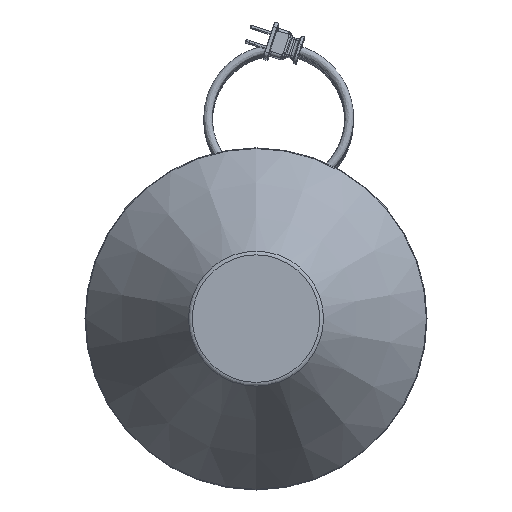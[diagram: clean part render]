
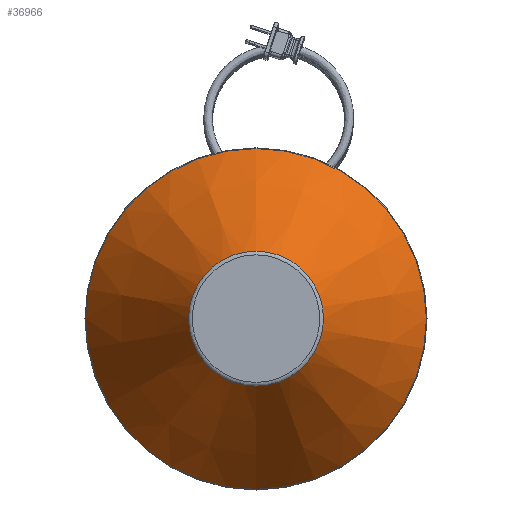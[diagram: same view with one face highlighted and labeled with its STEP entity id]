
A CAD part, top view. The second image highlights one B-rep face of the part: STEP entity #36966.
In plain terms, the highlighted conical face has half-angle 32.969 degrees and reference radius 85.717 mm.
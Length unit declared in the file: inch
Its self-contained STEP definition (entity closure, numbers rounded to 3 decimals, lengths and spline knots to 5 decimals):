
#359=CONICAL_SURFACE('',#38797,3.3747,0.575);
#5952=FACE_OUTER_BOUND('',#8162,.T.);
#8162=EDGE_LOOP('',(#34797,#34798,#34799,#34800,#34801,#34802));
#11462=LINE('',#78416,#14760);
#14760=VECTOR('',#45368,3.3747);
#15146=CIRCLE('',#38794,4.83462);
#15147=CIRCLE('',#38795,4.83462);
#15149=CIRCLE('',#38798,1.91477);
#15150=CIRCLE('',#38799,1.91477);
#18681=VERTEX_POINT('',#78407);
#18682=VERTEX_POINT('',#78408);
#18683=VERTEX_POINT('',#78413);
#18684=VERTEX_POINT('',#78414);
#24053=EDGE_CURVE('',#18681,#18682,#15146,.T.);
#24054=EDGE_CURVE('',#18682,#18681,#15147,.T.);
#24056=EDGE_CURVE('',#18683,#18684,#15149,.T.);
#24057=EDGE_CURVE('',#18683,#18681,#11462,.T.);
#24058=EDGE_CURVE('',#18684,#18683,#15150,.T.);
#34797=ORIENTED_EDGE('',*,*,#24056,.F.);
#34798=ORIENTED_EDGE('',*,*,#24057,.T.);
#34799=ORIENTED_EDGE('',*,*,#24053,.T.);
#34800=ORIENTED_EDGE('',*,*,#24054,.T.);
#34801=ORIENTED_EDGE('',*,*,#24057,.F.);
#34802=ORIENTED_EDGE('',*,*,#24058,.F.);
#36966=ADVANCED_FACE('',(#5952),#359,.T.);
#38794=AXIS2_PLACEMENT_3D('',#78409,#45358,#45359);
#38795=AXIS2_PLACEMENT_3D('',#78410,#45360,#45361);
#38797=AXIS2_PLACEMENT_3D('',#78412,#45364,#45365);
#38798=AXIS2_PLACEMENT_3D('',#78415,#45366,#45367);
#38799=AXIS2_PLACEMENT_3D('',#78417,#45369,#45370);
#45358=DIRECTION('center_axis',(0.,0.,
1.));
#45359=DIRECTION('ref_axis',(0.,-1.,0.));
#45360=DIRECTION('center_axis',(0.,0.,
1.));
#45361=DIRECTION('ref_axis',(0.,-1.,0.));
#45364=DIRECTION('center_axis',(0.,0.,
-1.));
#45365=DIRECTION('ref_axis',(0.,-1.,0.));
#45366=DIRECTION('center_axis',(0.,0.,
1.));
#45367=DIRECTION('ref_axis',(0.,-1.,0.));
#45368=DIRECTION('',(0.,0.544,-0.839));
#45369=DIRECTION('center_axis',(0.,0.,
1.));
#45370=DIRECTION('ref_axis',(0.,-1.,0.));
#78407=CARTESIAN_POINT('',(0.,4.83462,5.19839));
#78408=CARTESIAN_POINT('',(-4.83462,0.,5.19839));
#78409=CARTESIAN_POINT('Origin',(0.,0.,
5.19839));
#78410=CARTESIAN_POINT('Origin',(0.,0.,
5.19839));
#78412=CARTESIAN_POINT('Origin',(0.,0.,
7.44911));
#78413=CARTESIAN_POINT('',(0.,1.91477,9.69982));
#78414=CARTESIAN_POINT('',(-1.91477,0.,9.69982));
#78415=CARTESIAN_POINT('Origin',(0.,0.,
9.69982));
#78416=CARTESIAN_POINT('',(0.,3.3747,7.44911));
#78417=CARTESIAN_POINT('Origin',(0.,0.,
9.69982));
